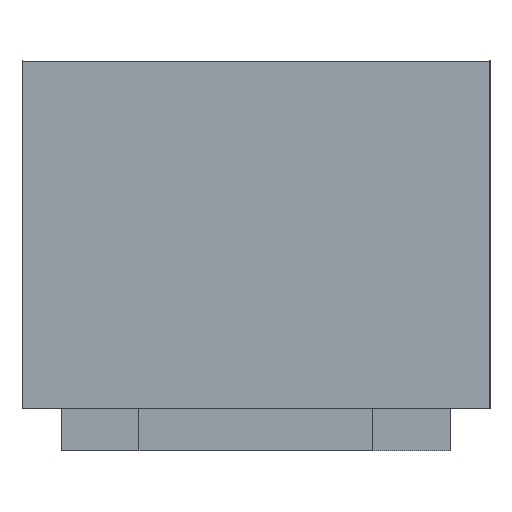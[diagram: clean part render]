
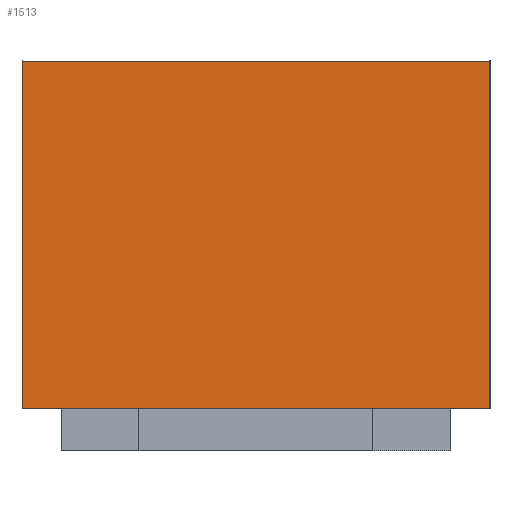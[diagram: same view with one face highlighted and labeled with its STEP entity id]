
A CAD part, left-side view. The second image highlights one B-rep face of the part: STEP entity #1513.
In plain terms, the highlighted planar face has unit normal (-1, 0, 0).
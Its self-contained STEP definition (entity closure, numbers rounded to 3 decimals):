
#1084=CARTESIAN_POINT('',(-0.5,0.3,0.445));
#1085=VERTEX_POINT('',#1084);
#1092=CARTESIAN_POINT('',(-0.5,-0.3,0.445));
#1093=VERTEX_POINT('',#1092);
#1094=CARTESIAN_POINT('',(-0.5,-0.3,0.445));
#1095=DIRECTION('',(0.,1.,0.));
#1096=VECTOR('',#1095,0.6);
#1097=LINE('',#1094,#1096);
#1098=EDGE_CURVE('',#1093,#1085,#1097,.T.);
#1280=CARTESIAN_POINT('',(-0.5,0.3,0.));
#1281=VERTEX_POINT('',#1280);
#1288=CARTESIAN_POINT('',(-0.5,0.3,0.445));
#1289=DIRECTION('',(0.,0.,-1.));
#1290=VECTOR('',#1289,0.445);
#1291=LINE('',#1288,#1290);
#1292=EDGE_CURVE('',#1085,#1281,#1291,.T.);
#1311=CARTESIAN_POINT('',(-0.5,-0.3,0.));
#1312=VERTEX_POINT('',#1311);
#1358=CARTESIAN_POINT('',(-0.5,-0.3,0.445));
#1359=DIRECTION('',(0.,0.,-1.));
#1360=VECTOR('',#1359,0.445);
#1361=LINE('',#1358,#1360);
#1362=EDGE_CURVE('',#1093,#1312,#1361,.T.);
#1426=CARTESIAN_POINT('',(-0.5,-0.3,0.));
#1427=DIRECTION('',(0.,1.,0.));
#1428=VECTOR('',#1427,0.6);
#1429=LINE('',#1426,#1428);
#1430=EDGE_CURVE('',#1312,#1281,#1429,.T.);
#1502=CARTESIAN_POINT('',(-0.5,-0.,0.445));
#1503=DIRECTION('',(-1.,0.,0.));
#1504=DIRECTION('',(0.,0.,1.));
#1505=AXIS2_PLACEMENT_3D('',#1502,#1503,#1504);
#1506=PLANE('',#1505);
#1507=ORIENTED_EDGE('',*,*,#1430,.F.);
#1508=ORIENTED_EDGE('',*,*,#1362,.F.);
#1509=ORIENTED_EDGE('',*,*,#1098,.T.);
#1510=ORIENTED_EDGE('',*,*,#1292,.T.);
#1511=EDGE_LOOP('',(#1507,#1508,#1509,#1510));
#1512=FACE_BOUND('',#1511,.T.);
#1513=ADVANCED_FACE('',(#1512),#1506,.T.);
